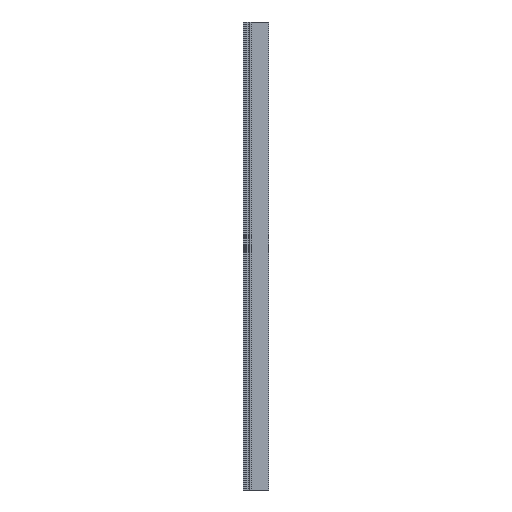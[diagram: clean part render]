
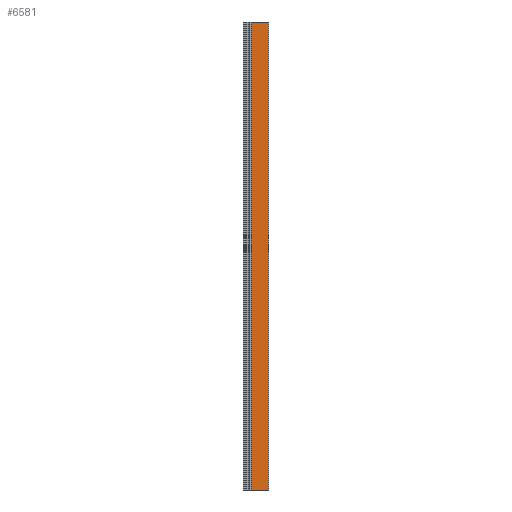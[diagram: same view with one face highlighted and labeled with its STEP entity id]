
A CAD part, front view. The second image highlights one B-rep face of the part: STEP entity #6581.
In plain terms, the highlighted planar face has unit normal (0, -1, 0).
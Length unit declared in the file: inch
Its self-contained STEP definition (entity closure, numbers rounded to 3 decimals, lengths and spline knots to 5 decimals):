
#173 = EDGE_CURVE ( 'NONE', #5096, #7287, #6663, .T. ) ;
#182 = DIRECTION ( 'NONE',  ( 0., 0., -1. ) ) ;
#377 = DIRECTION ( 'NONE',  ( 0., 0., 1. ) ) ;
#799 = CARTESIAN_POINT ( 'NONE',  ( -0.47877, -1.43606, 48. ) ) ;
#817 = CARTESIAN_POINT ( 'NONE',  ( 3.01997, -1.43606, 48. ) ) ;
#965 = DIRECTION ( 'NONE',  ( 0., 0., 1. ) ) ;
#997 = ORIENTED_EDGE ( 'NONE', *, *, #6975, .F. ) ;
#1221 = ORIENTED_EDGE ( 'NONE', *, *, #7904, .T. ) ;
#1315 = CARTESIAN_POINT ( 'NONE',  ( -0.47877, -1.43606, -48. ) ) ;
#1622 = CARTESIAN_POINT ( 'NONE',  ( -0.47877, -1.43606, -48. ) ) ;
#1956 = LINE ( 'NONE', #799, #6114 ) ;
#2660 = VECTOR ( 'NONE', #965, 39.37008 ) ;
#2856 = CARTESIAN_POINT ( 'NONE',  ( -0.47877, -1.43606, -48. ) ) ;
#2973 = CARTESIAN_POINT ( 'NONE',  ( 3.01997, -1.43606, -48. ) ) ;
#2986 = ORIENTED_EDGE ( 'NONE', *, *, #173, .F. ) ;
#3090 = CARTESIAN_POINT ( 'NONE',  ( -0.47877, -1.43606, -48. ) ) ;
#3320 = DIRECTION ( 'NONE',  ( 1., 0., 0. ) ) ;
#3559 = LINE ( 'NONE', #2973, #4324 ) ;
#3751 = DIRECTION ( 'NONE',  ( 1., 0., 0. ) ) ;
#4080 = EDGE_CURVE ( 'NONE', #7623, #7994, #3559, .T. ) ;
#4324 = VECTOR ( 'NONE', #377, 39.37008 ) ;
#4499 = DIRECTION ( 'NONE',  ( 0., -1., 0. ) ) ;
#4628 = PLANE ( 'NONE',  #6219 ) ;
#4650 = CARTESIAN_POINT ( 'NONE',  ( 3.01997, -1.43606, -48. ) ) ;
#4939 = CARTESIAN_POINT ( 'NONE',  ( -0.47877, -1.43606, 48. ) ) ;
#5096 = VERTEX_POINT ( 'NONE', #2856 ) ;
#5166 = ORIENTED_EDGE ( 'NONE', *, *, #4080, .T. ) ;
#6053 = VECTOR ( 'NONE', #3751, 39.37008 ) ;
#6114 = VECTOR ( 'NONE', #3320, 39.37008 ) ;
#6219 = AXIS2_PLACEMENT_3D ( 'NONE', #1315, #4499, #182 ) ;
#6266 = LINE ( 'NONE', #3090, #6053 ) ;
#6581 = ADVANCED_FACE ( 'NONE', ( #7084 ), #4628, .T. ) ;
#6663 = LINE ( 'NONE', #1622, #2660 ) ;
#6975 = EDGE_CURVE ( 'NONE', #7287, #7994, #1956, .T. ) ;
#7071 = EDGE_LOOP ( 'NONE', ( #1221, #5166, #997, #2986 ) ) ;
#7084 = FACE_OUTER_BOUND ( 'NONE', #7071, .T. ) ;
#7287 = VERTEX_POINT ( 'NONE', #4939 ) ;
#7623 = VERTEX_POINT ( 'NONE', #4650 ) ;
#7904 = EDGE_CURVE ( 'NONE', #5096, #7623, #6266, .T. ) ;
#7994 = VERTEX_POINT ( 'NONE', #817 ) ;
